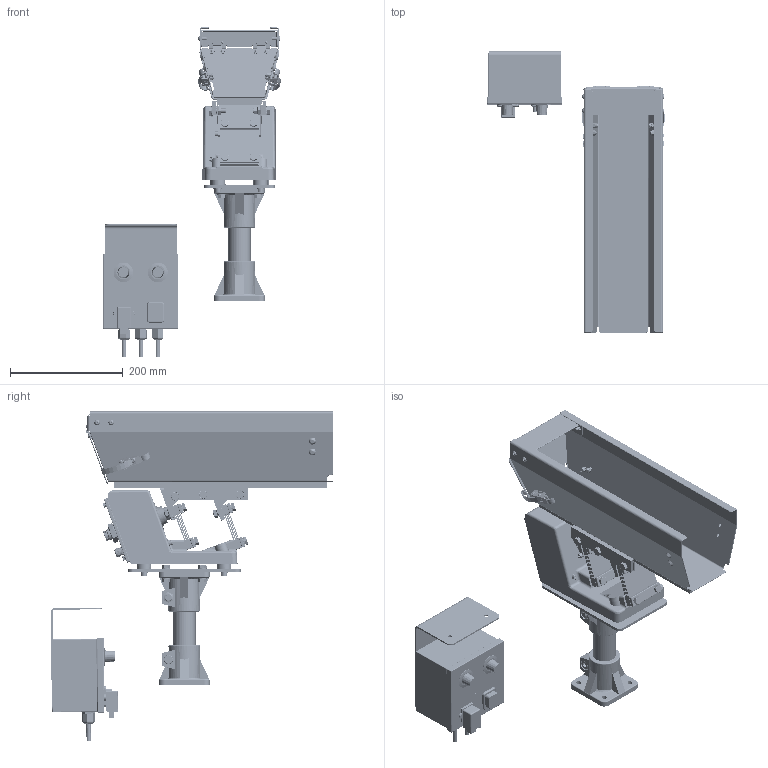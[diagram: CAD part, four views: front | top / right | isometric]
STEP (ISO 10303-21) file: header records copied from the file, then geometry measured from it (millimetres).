
FILE_DESCRIPTION (( 'STEP AP214' ), '1' );
FILE_NAME ('GM000343..step', '2026-10-16T10:40:37', ( '' ), ( '' ), 'SwSTEP 2.0', 'SolidWorks 2025', '' );
FILE_SCHEMA (( 'AUTOMOTIVE_DESIGN' ));
Length unit declared in the file: millimetre
Products named in the file (40): CM000934; CM000027; PD001013; CM000924; CM000922; CM000071; CM000979; PD001092; SM000080; PD001014; CM000305_002; CM000023; GM000343.; PD009561_002; CM000921; CM000064; CM000306_003; CM000305; CM000055; CM000031; CM000925; PD001016; CM000045; CM000305_003; CM000432; CE000026; CM000559; PD001091; CM000306_002; PD000067; CM000274; PD009561_001; CM000305_001; CM000306; CM000029; CM000561; PD009561; CM000306_001; CM000079
Assembly tree (104 placements, depth 3):
  CM000924
  CM000922
  GM000343.
    CM000045  x8
    CM000027  x4
    CM000023  x4
    CM000559  x8
    CM000561  x10
    CM000029  x8
    CM000079  x9
    CM000071  x4
    CM000274  x4
    CM000064  x4
    CM000031  x4
    CM000979  x6
    PD009561
      PD009561_001
      PD009561_002
    PD001091
    CM000305
      CM000305_001
      CM000305_003
      CM000305_002
    CM000305
      CM000305_001
      CM000305_003
      CM000305_002
    PD001092
    CM000306  x2
      CM000306_001
      CM000306_002
      CM000306_003
    PD001016
    CM000432  x2
    PD001014
    PD001013
    CM000055
    PD000067
    CE000026
    SM000080
    CM000934  x4
  CM000921
  CM000925
Bounding box: 315.06 x 500.15 x 583.57 mm (x, y, z)
Volume: 2968045.6 mm3; surface area: 1189256.9 mm2
Topology: 101 solids, 102 shells, 9614 faces, 25855 edges, 16587 vertices
Faces by surface type: cylinder 6465, plane 1835, cone 868, torus 237, sphere 158, bspline 51
Entity records: 151399 total; most frequent: CARTESIAN_POINT 64257, ORIENTED_EDGE 20078, DIRECTION 13141, EDGE_CURVE 10041, VERTEX_POINT 6320, B_SPLINE_CURVE_WITH_KNOTS 6030, AXIS2_PLACEMENT_3D 5275, EDGE_LOOP 4311
